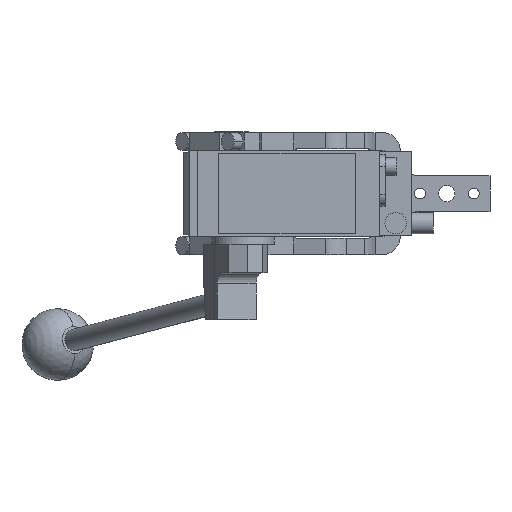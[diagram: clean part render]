
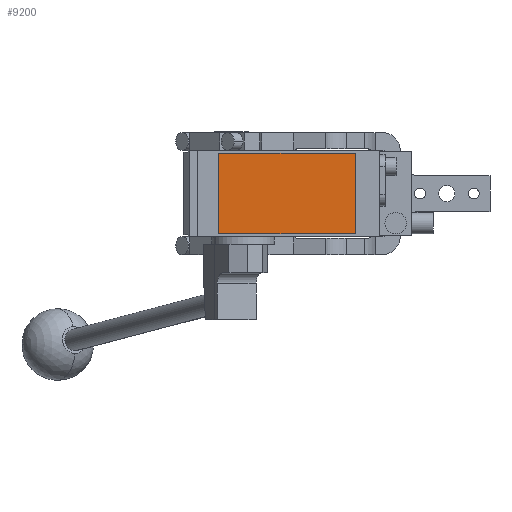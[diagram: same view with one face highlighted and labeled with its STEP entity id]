
A CAD part, front view. The second image highlights one B-rep face of the part: STEP entity #9200.
In plain terms, the highlighted planar face has unit normal (0, -1, 0).
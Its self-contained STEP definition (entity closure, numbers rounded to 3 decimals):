
#290 = ORIENTED_EDGE ( 'NONE', *, *, #11981, .T. ) ;
#665 = ORIENTED_EDGE ( 'NONE', *, *, #886, .T. ) ;
#886 = EDGE_CURVE ( 'NONE', #7992, #9453, #4140, .T. ) ;
#1774 = VECTOR ( 'NONE', #12400, 1000. ) ;
#2044 = VECTOR ( 'NONE', #9512, 1000. ) ;
#2466 = EDGE_LOOP ( 'NONE', ( #290, #665, #10200, #9187 ) ) ;
#2619 = CARTESIAN_POINT ( 'NONE',  ( -7., -280.5, 22.5 ) ) ;
#3920 = VERTEX_POINT ( 'NONE', #2619 ) ;
#4140 = LINE ( 'NONE', #9013, #9400 ) ;
#4418 = PLANE ( 'NONE',  #7382 ) ;
#4712 = CARTESIAN_POINT ( 'NONE',  ( 69., -280.5, 22.5 ) ) ;
#5123 = CARTESIAN_POINT ( 'NONE',  ( 69., -280.5, -22.5 ) ) ;
#5460 = EDGE_CURVE ( 'NONE', #5778, #3920, #6695, .T. ) ;
#5778 = VERTEX_POINT ( 'NONE', #15373 ) ;
#5815 = CARTESIAN_POINT ( 'NONE',  ( -7., -280.5, 22.5 ) ) ;
#6695 = LINE ( 'NONE', #7577, #1774 ) ;
#7039 = FACE_OUTER_BOUND ( 'NONE', #2466, .T. ) ;
#7249 = CARTESIAN_POINT ( 'NONE',  ( -7., -280.5, -22.5 ) ) ;
#7382 = AXIS2_PLACEMENT_3D ( 'NONE', #11873, #9454, #9530 ) ;
#7577 = CARTESIAN_POINT ( 'NONE',  ( -7., -280.5, 22.5 ) ) ;
#7992 = VERTEX_POINT ( 'NONE', #7249 ) ;
#8316 = LINE ( 'NONE', #5815, #10124 ) ;
#9013 = CARTESIAN_POINT ( 'NONE',  ( -7., -280.5, -22.5 ) ) ;
#9095 = DIRECTION ( 'NONE',  ( 1., 0., 0. ) ) ;
#9187 = ORIENTED_EDGE ( 'NONE', *, *, #5460, .T. ) ;
#9200 = ADVANCED_FACE ( 'NONE', ( #7039 ), #4418, .T. ) ;
#9400 = VECTOR ( 'NONE', #9095, 1000. ) ;
#9453 = VERTEX_POINT ( 'NONE', #5123 ) ;
#9454 = DIRECTION ( 'NONE',  ( 0., -1., 0. ) ) ;
#9512 = DIRECTION ( 'NONE',  ( 0., 0., 1. ) ) ;
#9530 = DIRECTION ( 'NONE',  ( 0., 0., -1. ) ) ;
#10124 = VECTOR ( 'NONE', #10913, 1000. ) ;
#10200 = ORIENTED_EDGE ( 'NONE', *, *, #14473, .T. ) ;
#10913 = DIRECTION ( 'NONE',  ( 0., 0., -1. ) ) ;
#10914 = LINE ( 'NONE', #4712, #2044 ) ;
#11873 = CARTESIAN_POINT ( 'NONE',  ( 0., -280.5, 0. ) ) ;
#11981 = EDGE_CURVE ( 'NONE', #3920, #7992, #8316, .T. ) ;
#12400 = DIRECTION ( 'NONE',  ( -1., 0., 0. ) ) ;
#14473 = EDGE_CURVE ( 'NONE', #9453, #5778, #10914, .T. ) ;
#15373 = CARTESIAN_POINT ( 'NONE',  ( 69., -280.5, 22.5 ) ) ;
